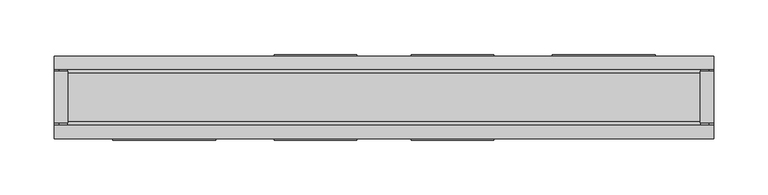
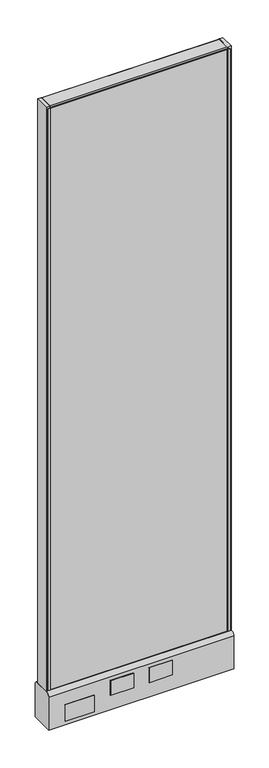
"""IFC4 building model written with IfcOpenShell, lengths in millimetres: furniture geometry."""

from ifc_helpers import new_model, si_unit, point, frame, frame_2d, origin, place, context, project, spatial, polyline, circle_curve, trimmed, segment, composite_curve, outline, extrude, source, transform, mapped, element, save
from ifc_brep_helpers import plane_surface, cylinder_surface, advanced_brep


def furniture_31a6571c(model_context):
    return source(origin(), model_context, "Body", "SolidModel", [
        extrude(outline(polyline([(-101.6, 39.6875), (-25.4, 39.6875), (-25.4, 38.1), (-101.6, 38.1), (-101.6, 39.6875)])), frame((0.0, 0.0, 60.325), z_axis=(0.0, 0.0, 1.0), x_axis=(1.0, 0.0, 0.0)), (0.0, 0.0, 1.0), 50.8),
        extrude(outline(polyline([(25.4, 39.6875), (101.6, 39.6875), (101.6, 38.1), (25.4, 38.1), (25.4, 39.6875)])), frame((0.0, 0.0, 60.325), z_axis=(0.0, 0.0, 1.0), x_axis=(1.0, 0.0, 0.0)), (0.0, 0.0, 1.0), 50.8),
        extrude(outline(polyline([(-101.6, -38.1), (-25.4, -38.1), (-25.4, -39.6875), (-101.6, -39.6875), (-101.6, -38.1)])), frame((0.0, 0.0, 60.325), z_axis=(0.0, 0.0, 1.0), x_axis=(1.0, 0.0, 0.0)), (0.0, 0.0, 1.0), 50.8),
        extrude(outline(polyline([(25.4, -38.1), (101.6, -38.1), (101.6, -39.6875), (25.4, -39.6875), (25.4, -38.1)])), frame((0.0, 0.0, 60.325), z_axis=(0.0, 0.0, 1.0), x_axis=(1.0, 0.0, 0.0)), (0.0, 0.0, 1.0), 50.8),
        extrude(outline(polyline([(250.825, 38.1), (155.575, 38.1), (155.575, 39.6875), (250.825, 39.6875), (250.825, 38.1)])), frame((0.0, 0.0, 22.225), z_axis=(0.0, 0.0, 1.0), x_axis=(1.0, 0.0, 0.0)), (0.0, 0.0, 1.0), 57.15),
        extrude(outline(polyline([(-155.575, -39.6875), (-250.825, -39.6875), (-250.825, -38.1), (-155.575, -38.1), (-155.575, -39.6875)])), frame((0.0, 0.0, 22.225), z_axis=(0.0, 0.0, 1.0), x_axis=(1.0, 0.0, 0.0)), (0.0, 0.0, 1.0), 57.15),
        advanced_brep(
        [(247.65, 0.0, 0.0), (273.05, 0.0, 0.0), (260.35, 0.0, 0.0), (247.65, 0.0, 4.7625), (273.05, 0.0, 4.7625), (254.0, 0.0, 4.7625), (266.7, 0.0, 4.7625), (254.0, 0.0, 111.125), (266.7, 0.0, 111.125), (260.35, 0.0, 111.125)],
        [
            (0, 1, circle_curve(frame((260.35, 0.0, 0.0), z_axis=(0.0, 0.0, -1.0), x_axis=(1.0, 0.0, 0.0)), 12.7)),
            (1, 2),
            (2, 0),
            (1, 0, circle_curve(frame((260.35, 0.0, 0.0), z_axis=(0.0, 0.0, -1.0), x_axis=(1.0, 0.0, 0.0)), 12.7)),
            (3, 4, circle_curve(frame((260.35, 0.0, 4.7625), z_axis=(0.0, 0.0, -1.0), x_axis=(1.0, 0.0, 0.0)), 12.7)),
            (4, 1),
            (0, 3),
            (4, 3, circle_curve(frame((260.35, 0.0, 4.7625), z_axis=(0.0, 0.0, -1.0), x_axis=(1.0, 0.0, 0.0)), 12.7)),
            (5, 6, circle_curve(frame((260.35, 0.0, 4.7625), z_axis=(0.0, 0.0, -1.0), x_axis=(1.0, 0.0, 0.0)), 6.35)),
            (6, 4),
            (3, 5),
            (6, 5, circle_curve(frame((260.35, 0.0, 4.7625), z_axis=(0.0, 0.0, -1.0), x_axis=(1.0, 0.0, 0.0)), 6.35)),
            (7, 8, circle_curve(frame((260.35, 0.0, 111.125), z_axis=(0.0, 0.0, -1.0), x_axis=(1.0, 0.0, 0.0)), 6.35)),
            (8, 6),
            (5, 7),
            (8, 7, circle_curve(frame((260.35, 0.0, 111.125), z_axis=(0.0, 0.0, -1.0), x_axis=(1.0, 0.0, 0.0)), 6.35)),
            (9, 8),
            (7, 9),
        ],
        [
            plane_surface(frame((260.35, 0.0, 0.0), z_axis=(0.0, 0.0, -1.0), x_axis=(1.0, 0.0, 0.0))),
            cylinder_surface(frame((260.35, 0.0, 114.882153), z_axis=(0.0, 0.0, 1.0), x_axis=(1.0, 0.0, 0.0)), 12.7),
            plane_surface(frame((260.35, 0.0, 4.7625), z_axis=(0.0, 0.0, 1.0), x_axis=(1.0, 0.0, 0.0))),
            cylinder_surface(frame((260.35, 0.0, 114.882153), z_axis=(0.0, 0.0, 1.0), x_axis=(1.0, 0.0, 0.0)), 6.35),
            plane_surface(frame((260.35, 0.0, 111.125), z_axis=(0.0, 0.0, 1.0), x_axis=(1.0, 0.0, 0.0))),
        ],
        [
            (0, [[1, 2, 3]]),
            (0, [[4, -3, -2]]),
            (1, [[5, 6, -1, 7]]),
            (1, [[8, -7, -4, -6]]),
            (2, [[9, 10, -5, 11]]),
            (2, [[12, -11, -8, -10]]),
            (3, [[13, 14, -9, 15]]),
            (3, [[16, -15, -12, -14]]),
            (4, [[17, -13, 18]]),
            (4, [[-18, -16, -17]]),
        ],
    ),
        advanced_brep(
        [(-273.05, 0.0, 4.7625), (-247.65, 0.0, 4.7625), (-247.65, 0.0, 0.0), (-273.05, 0.0, 0.0), (-266.7, 0.0, 4.7625), (-254.0, 0.0, 4.7625), (-266.7, 0.0, 111.125), (-254.0, 0.0, 111.125), (-260.35, 0.0, 111.125), (-260.35, 0.0, 0.0)],
        [
            (0, 1, circle_curve(frame((-260.35, 0.0, 4.7625), z_axis=(0.0, 0.0, -1.0), x_axis=(1.0, 0.0, 0.0)), 12.7)),
            (1, 2),
            (2, 3, circle_curve(frame((-260.35, 0.0, 0.0), z_axis=(0.0, 0.0, 1.0), x_axis=(1.0, 0.0, 0.0)), 12.7)),
            (3, 0),
            (1, 0, circle_curve(frame((-260.35, 0.0, 4.7625), z_axis=(0.0, 0.0, -1.0), x_axis=(1.0, 0.0, 0.0)), 12.7)),
            (3, 2, circle_curve(frame((-260.35, 0.0, 0.0), z_axis=(0.0, 0.0, 1.0), x_axis=(1.0, 0.0, 0.0)), 12.7)),
            (4, 5, circle_curve(frame((-260.35, 0.0, 4.7625), z_axis=(0.0, 0.0, -1.0), x_axis=(1.0, 0.0, 0.0)), 6.35)),
            (5, 1),
            (0, 4),
            (5, 4, circle_curve(frame((-260.35, 0.0, 4.7625), z_axis=(0.0, 0.0, -1.0), x_axis=(1.0, 0.0, 0.0)), 6.35)),
            (6, 7, circle_curve(frame((-260.35, 0.0, 111.125), z_axis=(0.0, 0.0, -1.0), x_axis=(1.0, 0.0, 0.0)), 6.35)),
            (7, 5),
            (4, 6),
            (7, 6, circle_curve(frame((-260.35, 0.0, 111.125), z_axis=(0.0, 0.0, -1.0), x_axis=(1.0, 0.0, 0.0)), 6.35)),
            (8, 7),
            (6, 8),
            (2, 9),
            (9, 3),
        ],
        [
            cylinder_surface(frame((-260.35, 0.0, 123.825), z_axis=(0.0, 0.0, 1.0), x_axis=(1.0, 0.0, 0.0)), 12.7),
            plane_surface(frame((-260.35, 0.0, 4.7625), z_axis=(0.0, 0.0, 1.0), x_axis=(1.0, 0.0, 0.0))),
            cylinder_surface(frame((-260.35, 0.0, 123.825), z_axis=(0.0, 0.0, 1.0), x_axis=(1.0, 0.0, 0.0)), 6.35),
            plane_surface(frame((-260.35, 0.0, 111.125), z_axis=(0.0, 0.0, 1.0), x_axis=(1.0, 0.0, 0.0))),
            plane_surface(frame((-260.35, 0.0, 0.0), z_axis=(0.0, 0.0, -1.0), x_axis=(1.0, 0.0, 0.0))),
        ],
        [
            (0, [[1, 2, 3, 4]]),
            (0, [[5, -4, 6, -2]]),
            (1, [[7, 8, -1, 9]]),
            (1, [[10, -9, -5, -8]]),
            (2, [[11, 12, -7, 13]]),
            (2, [[14, -13, -10, -12]]),
            (3, [[15, -11, 16]]),
            (3, [[-16, -14, -15]]),
            (4, [[-3, 17, 18]]),
            (4, [[-6, -18, -17]]),
        ],
    ),
        extrude(outline(polyline([(-304.8, 23.8125), (-292.1, 23.8125), (-292.1, -23.8125), (-304.8, -23.8125), (-304.8, 23.8125)])), frame((0.0, 0.0, 136.525), z_axis=(0.0, 0.0, 1.0), x_axis=(1.0, 0.0, 0.0)), (0.0, 0.0, 1.0), 2032.0),
        extrude(outline(polyline([(292.1, -23.8125), (292.1, 23.8125), (304.8, 23.8125), (304.8, -23.8125), (292.1, -23.8125)])), frame((0.0, 0.0, 136.525), z_axis=(0.0, 0.0, 1.0), x_axis=(1.0, 0.0, 0.0)), (0.0, 0.0, 1.0), 2032.0),
        extrude(outline(polyline([(-292.1, 25.4), (-292.1, 23.8125), (-300.0375, 23.8125), (-300.0375, 25.4), (-292.1, 25.4)])), frame((0.0, 0.0, 136.525), z_axis=(0.0, 0.0, 1.0), x_axis=(1.0, 0.0, 0.0)), (0.0, 0.0, 1.0), 2025.65),
        extrude(outline(polyline([(-292.1, -25.4), (-300.0375, -25.4), (-300.0375, -23.8125), (-292.1, -23.8125), (-292.1, -25.4)])), frame((0.0, 0.0, 136.525), z_axis=(0.0, 0.0, 1.0), x_axis=(1.0, 0.0, 0.0)), (0.0, 0.0, 1.0), 2025.65),
        extrude(outline(polyline([(300.0375, 23.8125), (292.1, 23.8125), (292.1, 25.4), (300.0375, 25.4), (300.0375, 23.8125)])), frame((0.0, 0.0, 136.525), z_axis=(0.0, 0.0, 1.0), x_axis=(1.0, 0.0, 0.0)), (0.0, 0.0, 1.0), 2025.65),
        extrude(outline(polyline([(292.1, -25.4), (292.1, -23.8125), (300.0375, -23.8125), (300.0375, -25.4), (292.1, -25.4)])), frame((0.0, 0.0, 136.525), z_axis=(0.0, 0.0, 1.0), x_axis=(1.0, 0.0, 0.0)), (0.0, 0.0, 1.0), 2025.65),
        extrude(outline(composite_curve([segment(trimmed(circle_curve(frame_2d((22.225, 2165.35)), 3.175), [point((22.225, 2168.525))], [point((25.4, 2165.35))], False, "CARTESIAN"), True, "CONTINUOUS"), segment(polyline([(25.4, 2165.35), (25.4, 2162.175), (-25.4, 2162.175), (-25.4, 2165.35)]), True, "CONTINUOUS"), segment(trimmed(circle_curve(frame_2d((-22.225, 2165.35)), 3.175), [point((-25.4, 2165.35))], [point((-22.225, 2168.525))], False, "CARTESIAN"), True, "CONTINUOUS"), segment(polyline([(-22.225, 2168.525), (22.225, 2168.525)]), True, "CONTINUOUS")], self_intersect=False)), frame((-292.1, 0.0, 0.0), z_axis=(1.0, 0.0, 0.0), x_axis=(0.0, 1.0, 0.0)), (0.0, 0.0, 1.0), 584.2),
        extrude(outline(composite_curve([segment(trimmed(circle_curve(frame_2d((25.4, 123.825)), 12.7), [point((25.4, 136.525))], [point((38.1, 123.825))], False, "CARTESIAN"), True, "CONTINUOUS"), segment(polyline([(38.1, 123.825), (38.1, 9.525), (-38.1, 9.525), (-38.1, 123.825)]), True, "CONTINUOUS"), segment(trimmed(circle_curve(frame_2d((-25.4, 123.825)), 12.7), [point((-38.1, 123.825))], [point((-25.4, 136.525))], False, "CARTESIAN"), True, "CONTINUOUS"), segment(polyline([(-25.4, 136.525), (25.4, 136.525)]), True, "CONTINUOUS")], self_intersect=False)), frame((-304.8, 0.0, 0.0), z_axis=(1.0, 0.0, 0.0), x_axis=(0.0, 1.0, 0.0)), (0.0, 0.0, 1.0), 609.6),
        extrude(outline(polyline([(292.1, 23.8125), (292.1, -23.8125), (-292.1, -23.8125), (-292.1, 23.8125), (292.1, 23.8125)])), frame((0.0, 0.0, 136.525), z_axis=(0.0, 0.0, 1.0), x_axis=(1.0, 0.0, 0.0)), (0.0, 0.0, 1.0), 2025.65),
    ])


if __name__ == "__main__":
    model = new_model("IFC4")
    model_context = context("Model", 3, world=origin())
    ifc_project = project(units=[si_unit("LENGTHUNIT", "METRE", prefix="MILLI")], contexts=[model_context])
    site = spatial("IfcSite", under=ifc_project)
    building = spatial("IfcBuilding", under=site)
    placement = place(None, origin())
    furniture_shape = furniture_31a6571c(model_context)
    element("IfcFurniture", 1, ObjectType="HermanMiller_ActionOffice_A1110_Hard-SurfacedPanelStandardBase : 85\"H x 24\"W-G", at=placement, inside=building, context=model_context, shape_type="MappedRepresentation", body=[
        mapped(furniture_shape, transform((0.0, 0.0, 0.0), x_axis=(1.0, 0.0, 0.0), y_axis=(0.0, 1.0, 0.0), z_axis=(0.0, 0.0, 1.0))),
    ])
    save(model, "model.ifc")
